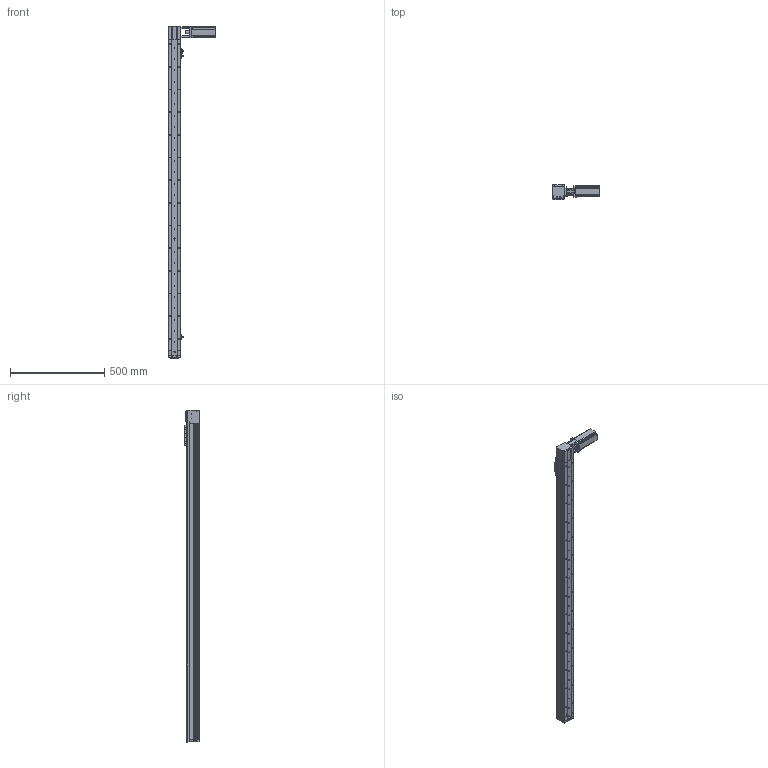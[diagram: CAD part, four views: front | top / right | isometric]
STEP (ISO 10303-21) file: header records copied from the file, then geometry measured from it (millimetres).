
FILE_DESCRIPTION (( 'STEP AP214' ), '1' );
FILE_NAME ('KSD68BS-S1500-MRT-CR.STEP', '2019-08-27T07:31:21', ( '微软用户' ), ( '微软中国' ), 'SwSTEP 2.0', 'SolidWorks 2014', '' );
FILE_SCHEMA (( 'AUTOMOTIVE_DESIGN' ));
Length unit declared in the file: millimetre
Products named in the file (13): 68单导轨全封闭同步带电机座左; 68单导轨全封闭同步带安装板; 感应片68宽全封闭; U倰嫖萇EEㄜSX672; 台达ECMA－C20604AS伺服电机（400W); KSD68BS 1500行程底板全封闭; KSD68BS-S1500-MRT-CR; 100遵鎮湛假蚾啣1; KSD68BS 1500行程盖板全封闭; 68遵裔啣揤啣1; 68宽单导轨全封闭丝杆传动安装板1防护罩; KSD68BS 1500行程侧板全封闭; 68宽单导轨全封闭同步带端板
Assembly tree (16 placements, depth 2):
  KSD68BS-S1500-MRT-CR
    KSD68BS 1500行程底板全封闭
    台达ECMA－C20604AS伺服电机（400W)
    U倰嫖萇EEㄜSX672  x3
    感应片68宽全封闭
    68单导轨全封闭同步带安装板
    68单导轨全封闭同步带电机座左
    68宽单导轨全封闭同步带端板
    KSD68BS 1500行程侧板全封闭  x2
    68宽单导轨全封闭丝杆传动安装板1防护罩
    68遵裔啣揤啣1  x2
    KSD68BS 1500行程盖板全封闭
    100遵鎮湛假蚾啣1
Bounding box: 252.7 x 77 x 1758.1 mm (x, y, z)
Volume: 3158432.6 mm3; surface area: 1251719.1 mm2
Topology: 17 solids, 17 shells, 1543 faces, 4448 edges, 2830 vertices
Faces by surface type: cylinder 753, plane 602, cone 188
Entity records: 50362 total; most frequent: CARTESIAN_POINT 8779, DIRECTION 7423, ORIENTED_EDGE 7108, EDGE_CURVE 3554, AXIS2_PLACEMENT_3D 2710, VERTEX_POINT 2328, LINE 2003, VECTOR 2003
